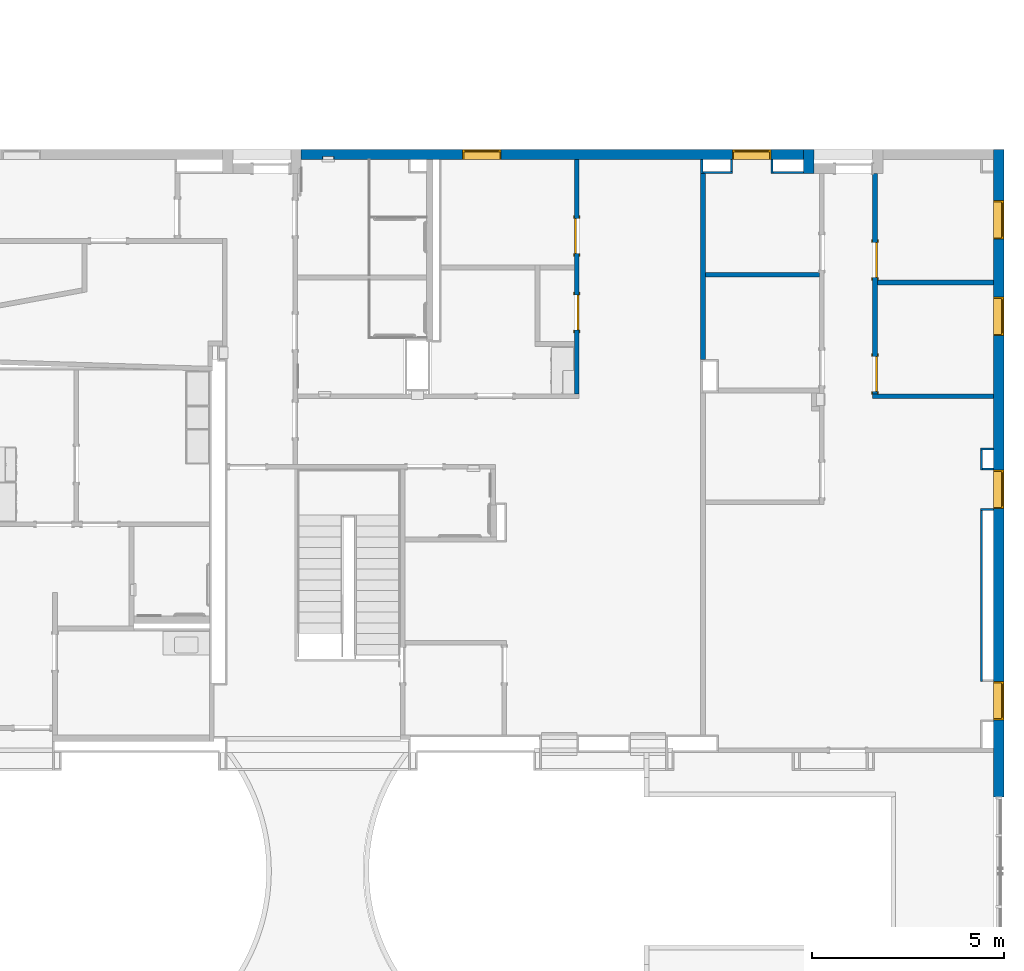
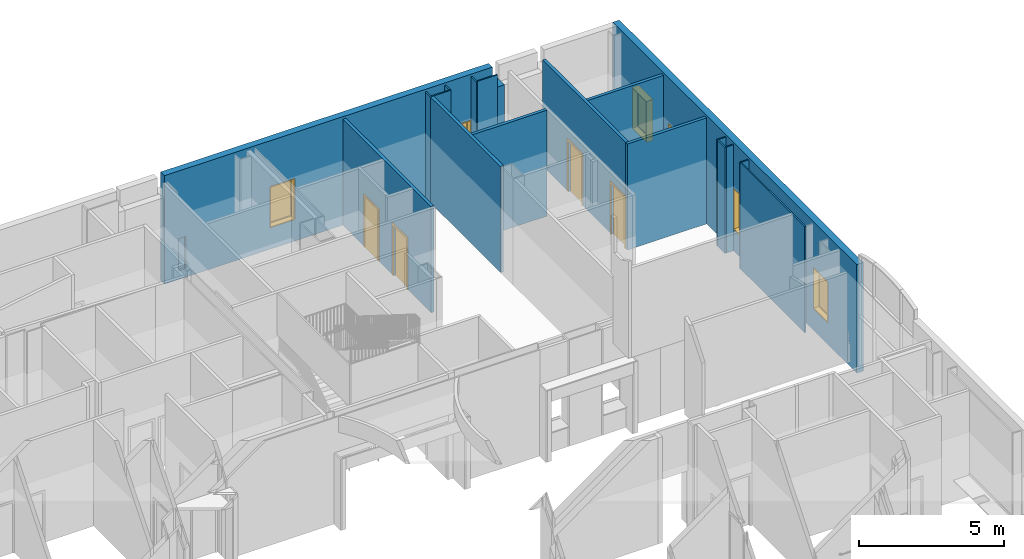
# One storey, part 41 of 87: 19 walls, 6 windows, 4 doors, 11 openings.
"""IFC2X3 building model written with IfcOpenShell, lengths in metres."""

import ifcopenshell
import ifcopenshell.guid

model = None  # the IFC model being written
_history = None  # IfcOwnerHistory: only IFC2X3 demands one
_inside = {}  # id of a spatial element -> (the spatial element, [elements in it])
_under = {}  # id of a project, library or spatial element -> (it, [spatial elements below it])
_declared = {}  # id of a project -> (the project, [libraries it declares])
_typed = {}  # id of a type object -> (the type object, [elements of that type])
_made_of = {}  # id of a material, layer set ... -> (it, [elements and type objects made of it])


def new_model(schema):
    """Start an empty IFC model of exactly this schema.

    Asked for "IFC4X3", IfcOpenShell would pick the latest addendum, in which some entities
    have other attributes; the version numbers below select the first issue.
    IFC2X3 requires an IfcOwnerHistory on every rooted entity: one is made here for all.
    """
    global model, _history
    if schema == "IFC4X3":
        model = ifcopenshell.file(schema_version=(4, 3, 0, 0))
    else:
        model = ifcopenshell.file(schema=schema)
    _inside.clear()
    _under.clear()
    _declared.clear()
    _typed.clear()
    _made_of.clear()
    _history = None
    if model.schema == "IFC2X3":
        org = make("IfcOrganization", Name="unknown")
        user = make(
            "IfcPersonAndOrganization",
            ThePerson=make("IfcPerson", FamilyName="unknown"),
            TheOrganization=org,
        )
        app = make(
            "IfcApplication",
            ApplicationDeveloper=org,
            Version="unknown",
            ApplicationFullName="unknown",
            ApplicationIdentifier="unknown",
        )
        _history = make(
            "IfcOwnerHistory",
            OwningUser=user,
            OwningApplication=app,
            ChangeAction="ADDED",
            CreationDate=0,
        )
    return model


def make(cls, **values):
    """One entity of the class cls with the attributes given. An attribute that is None is left unset."""
    return model.create_entity(
        cls, **{name: value for name, value in values.items() if value is not None}
    )


def entity(cls, *values):
    """Any entity or typed value of the class cls, its attributes in the order of the schema. None: left unset."""
    e = model.create_entity(cls)
    for i, value in enumerate(values):
        if value is not None:
            e[i] = value
    return e


def rooted(cls, **values):
    """An entity with a GlobalId (a new one), such as an element, a storey or a relation."""
    return make(cls, GlobalId=ifcopenshell.guid.new(), OwnerHistory=_history, **values)


def si_unit(unit_type, name, prefix=None):
    """IfcSIUnit, for example si_unit("LENGTHUNIT", "METRE", prefix="MILLI")."""
    return make("IfcSIUnit", UnitType=unit_type, Prefix=prefix, Name=name)


def converted_unit(unit_type, name, factor, base, dimensions=None, offset=None):
    """IfcConversionBasedUnit, such as the inch: factor (a typed value) times the base unit."""
    return make(
        "IfcConversionBasedUnit"
        if offset is None
        else "IfcConversionBasedUnitWithOffset",
        ConversionOffset=offset,
        Dimensions=None
        if dimensions is None
        else entity("IfcDimensionalExponents", *dimensions),
        UnitType=unit_type,
        Name=name,
        ConversionFactor=make(
            "IfcMeasureWithUnit", ValueComponent=factor, UnitComponent=base
        ),
    )


def assignment(units):
    """IfcUnitAssignment: the units of a project."""
    return None if units is None else make("IfcUnitAssignment", Units=units)


def point(xyz):
    """IfcCartesianPoint."""
    return None if xyz is None else make("IfcCartesianPoint", Coordinates=xyz)


def direction(xyz):
    """IfcDirection."""
    return None if xyz is None else make("IfcDirection", DirectionRatios=xyz)


def frame(location, z_axis=None, x_axis=None):
    """IfcAxis2Placement3D, a coordinate frame: its origin and axes. An axis left out is left unset."""
    return make(
        "IfcAxis2Placement3D",
        Location=point(location),
        Axis=direction(z_axis),
        RefDirection=direction(x_axis),
    )


def frame_2d(location, x_axis=None):
    """IfcAxis2Placement2D, a coordinate frame in the plane: its origin and x axis."""
    return make(
        "IfcAxis2Placement2D", Location=point(location), RefDirection=direction(x_axis)
    )


def origin():
    """The frame at (0, 0, 0) with its axes left unset."""
    return frame((0.0, 0.0, 0.0))


def origin_2d_with_axis():
    """The frame at (0, 0) in the plane with the x axis (1, 0) written out."""
    return frame_2d((0.0, 0.0), x_axis=(1.0, 0.0))


def place(relative_to, where):
    """IfcLocalPlacement: puts the frame where relative to a parent placement (None: the world)."""
    return make(
        "IfcLocalPlacement", PlacementRelTo=relative_to, RelativePlacement=where
    )


def context(
    kind, dimensions, precision=None, world=None, true_north=None, identifier=None
):
    """IfcGeometricRepresentationContext, for example the 3D "Model" context."""
    return make(
        "IfcGeometricRepresentationContext",
        ContextIdentifier=identifier,
        ContextType=kind,
        CoordinateSpaceDimension=dimensions,
        Precision=precision,
        WorldCoordinateSystem=world,
        TrueNorth=true_north,
    )


def project(units=None, contexts=None):
    """IfcProject with its units and contexts."""
    return rooted(
        "IfcProject",
        Name="project",
        RepresentationContexts=contexts,
        UnitsInContext=assignment(units),
    )


def spatial(cls, under=None, at=None, **own):
    """A site, building, storey or space (cls), placed at a placement, below another one or the project."""
    s = rooted(cls, ObjectPlacement=at, **own)
    if under is not None:
        _under.setdefault(under.id(), (under, []))[1].append(s)
    return s


def polyline(points):
    """IfcPolyline through the points."""
    return make("IfcPolyline", Points=[point(p) for p in points])


def profile(cls, at=None, kind="AREA", **sizes):
    """A parametric profile (cls). Its sizes go by their IFC names, for example OverallWidth=200.0."""
    return make(cls, ProfileType=kind, Position=at, **sizes)


def rectangle(**sizes):
    """IfcRectangleProfileDef."""
    return profile("IfcRectangleProfileDef", **sizes)


def outline(outer, holes=None, kind="AREA"):
    """IfcArbitraryClosedProfileDef: a profile drawn as a closed curve; with holes, ...WithVoids."""
    if holes is None:
        return make("IfcArbitraryClosedProfileDef", ProfileType=kind, OuterCurve=outer)
    return make(
        "IfcArbitraryProfileDefWithVoids",
        ProfileType=kind,
        OuterCurve=outer,
        InnerCurves=holes,
    )


def extrude(swept, where, along, depth):
    """IfcExtrudedAreaSolid: the profile swept, set in the frame where, extruded along a direction by depth."""
    return make(
        "IfcExtrudedAreaSolid",
        SweptArea=swept,
        Position=where,
        ExtrudedDirection=direction(along),
        Depth=depth,
    )


def shape(context_of_items, identifier, shape_type, items):
    """IfcShapeRepresentation: the items that make up one representation, for example the "Body"."""
    return make(
        "IfcShapeRepresentation",
        ContextOfItems=context_of_items,
        RepresentationIdentifier=identifier,
        RepresentationType=shape_type,
        Items=items,
    )


def source(mapping_origin, context_of_items, identifier, shape_type, items):
    """IfcRepresentationMap: a shape defined once, which mapped items show again and again."""
    return make(
        "IfcRepresentationMap",
        MappingOrigin=mapping_origin,
        MappedRepresentation=shape(context_of_items, identifier, shape_type, items),
    )


def transform(
    local_origin,
    x_axis=None,
    y_axis=None,
    z_axis=None,
    scale=None,
    scale2=None,
    scale3=None,
    uniform=True,
):
    """IfcCartesianTransformationOperator3D, or its non-uniform kind. x_axis, y_axis, z_axis: its Axis1, 2, 3."""
    if uniform:
        return make(
            "IfcCartesianTransformationOperator3D",
            Axis1=direction(x_axis),
            Axis2=direction(y_axis),
            LocalOrigin=point(local_origin),
            Scale=scale,
            Axis3=direction(z_axis),
        )
    return make(
        "IfcCartesianTransformationOperator3DnonUniform",
        Axis1=direction(x_axis),
        Axis2=direction(y_axis),
        LocalOrigin=point(local_origin),
        Scale=scale,
        Axis3=direction(z_axis),
        Scale2=scale2,
        Scale3=scale3,
    )


def mapped(mapping_source, mapping_target):
    """IfcMappedItem: shows the shape of a source again, moved by a transform."""
    return make(
        "IfcMappedItem", MappingSource=mapping_source, MappingTarget=mapping_target
    )


def material(Name=None, Category=None):
    """IfcMaterial."""
    return make("IfcMaterial", Name=Name, Category=Category)


def layer(
    of_material, thickness, ventilated=None, Name=None, Category=None, Priority=None
):
    """IfcMaterialLayer: one layer of a wall or slab, of a material (None: an air gap)."""
    return make(
        "IfcMaterialLayer",
        Material=of_material,
        LayerThickness=thickness,
        IsVentilated=ventilated,
        Name=Name,
        Category=Category,
        Priority=Priority,
    )


def layer_set(layers, Name=None):
    """IfcMaterialLayerSet."""
    return make("IfcMaterialLayerSet", MaterialLayers=layers, LayerSetName=Name)


def layer_usage(for_layer_set, set_direction, sense, offset, extent=None):
    """IfcMaterialLayerSetUsage: how a layer set lies in its element."""
    return make(
        "IfcMaterialLayerSetUsage",
        ForLayerSet=for_layer_set,
        LayerSetDirection=set_direction,
        DirectionSense=sense,
        OffsetFromReferenceLine=offset,
        ReferenceExtent=extent,
    )


def made_of(thing, what):
    """Note that an element or type object is made of a material, layer set ...; save() writes the relation."""
    if what is not None:
        _made_of.setdefault(what.id(), (what, []))[1].append(thing)
    return thing


def type_object(cls, material=None, **own):
    """A type object (cls), such as IfcWallType, which elements share."""
    return made_of(rooted(cls, **own), material)


def type_shapes(of_type, sources):
    """Give a type object the sources (RepresentationMaps) that its elements show as mapped items."""
    of_type.RepresentationMaps = sources


def element(
    cls,
    number,
    at=None,
    inside=None,
    cuts=None,
    type_object=None,
    material=None,
    context=None,
    identifier="Body",
    shape_type=None,
    held_by="IfcProductDefinitionShape",
    body=None,
    shapes=None,
    **own,
):
    """One element of the class cls, such as IfcWall. Its Tag is "e" and its number.

    at: its placement. inside: the storey or other place that contains it. cuts: it is an
    opening in that element (IfcRelVoidsElement). A single representation is given by context,
    identifier, shape_type and body (its items); several are given by shapes. held_by: the class
    of the entity that holds the representations. save() writes the other relations.
    """
    e = rooted(cls, Tag="e%d" % number, ObjectPlacement=at, **own)
    if body is not None:
        shapes = [shape(context, identifier, shape_type, body)]
    if shapes is not None:
        e.Representation = make(held_by, Representations=shapes)
    if inside is not None:
        _inside.setdefault(inside.id(), (inside, []))[1].append(e)
    if cuts is not None:
        rooted(
            "IfcRelVoidsElement", RelatingBuildingElement=cuts, RelatedOpeningElement=e
        )
    if type_object is not None:
        _typed.setdefault(type_object.id(), (type_object, []))[1].append(e)
    return made_of(e, material)


def fill(opening, filler):
    """IfcRelFillsElement: the door or window that sits in an opening."""
    return rooted(
        "IfcRelFillsElement",
        RelatingOpeningElement=opening,
        RelatedBuildingElement=filler,
    )


def aggregate(whole, parts):
    """IfcRelAggregates: a whole, such as a stair, and the parts it consists of."""
    return rooted("IfcRelAggregates", RelatingObject=whole, RelatedObjects=parts)


def save(model, path):
    """Write the relations noted so far, then the file.

    IfcRelAggregates (storeys below a building ...), IfcRelContainedInSpatialStructure (elements
    in a storey), IfcRelDefinesByType, IfcRelAssociatesMaterial and IfcRelDeclares: one each for
    every whole, place, type object, material and project.
    """
    for whole, parts in _under.values():
        aggregate(whole, parts)
    for where, things in _inside.values():
        rooted(
            "IfcRelContainedInSpatialStructure",
            RelatedElements=things,
            RelatingStructure=where,
        )
    for kind, things in _typed.values():
        rooted("IfcRelDefinesByType", RelatedObjects=things, RelatingType=kind)
    for what, things in _made_of.values():
        rooted("IfcRelAssociatesMaterial", RelatedObjects=things, RelatingMaterial=what)
    for by, libraries in _declared.values():
        rooted("IfcRelDeclares", RelatingContext=by, RelatedDefinitions=libraries)
    model.write(path)


model = new_model("IFC2X3")

# Units and contexts
model_context = context("Model", 3, precision=1e-09, world=origin())
plan_context = context("Plan", 3, precision=1e-09, world=origin())
ifc_project = project(units=[si_unit("LENGTHUNIT", "METRE"), si_unit("AREAUNIT", "SQUARE_METRE"), si_unit("VOLUMEUNIT", "CUBIC_METRE"), converted_unit("PLANEANGLEUNIT", "DEGREE", entity("IfcRatioMeasure", 0.01745329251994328), si_unit("PLANEANGLEUNIT", "RADIAN"), dimensions=[0, 0, 0, 0, 0, 0, 0]), si_unit("TIMEUNIT", "SECOND")], contexts=[model_context, plan_context])

# Site, building, storey
site_placement = place(None, origin())
site = spatial("IfcSite", under=ifc_project, at=site_placement, Name="Default", CompositionType="ELEMENT")
building_placement = place(site_placement, origin())
building = spatial("IfcBuilding", under=site, at=building_placement, CompositionType="ELEMENT")
storey_placement = place(building_placement, origin())
storey = spatial("IfcBuildingStorey", under=building, at=storey_placement, Name="First Floor", CompositionType="ELEMENT", Elevation=-3.531500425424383e-13)

# Wall, openings, windows
ifc_material_1 = material(Name="Insulation - Insulated Panel")
ifc_layer_1 = layer(ifc_material_1, 0.042)
ifc_material_2 = material(Name="Metal - Firring")
ifc_layer_2 = layer(ifc_material_2, 0.038)
ifc_material_3 = material(Name="Wood - Sheathing - plywood")
ifc_layer_3 = layer(ifc_material_3, 0.019)
ifc_material_4 = material(Name="Metal - Stud Layer")
ifc_layer_4 = layer(ifc_material_4, 0.152)
ifc_material_5 = material(Name="Plasterboard")
ifc_layer_5 = layer(ifc_material_5, 0.016)
ifc_layer_set_1 = layer_set([ifc_layer_1, ifc_layer_2, ifc_layer_3, ifc_layer_4, ifc_layer_5], Name="Basic Wall:Exterior - Insul Panel on Mtl. Stud")
ifc_layer_usage_1 = layer_usage(ifc_layer_set_1, "AXIS2", "NEGATIVE", 0.1335)
wall_1_placement = place(storey_placement, frame((0.2464999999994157, 50.46999999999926, 0.0), z_axis=(0.0, 0.0, 1.0), x_axis=(0.0, -1.0, 0.0)))
wall_1 = element("IfcWallStandardCase", 1, at=wall_1_placement, inside=storey, material=ifc_layer_usage_1, Name="Basic Wall:Exterior - Insul Panel on Mtl. Stud", ObjectType="Basic Wall:Exterior - Insul Panel on Mtl. Stud", context=model_context, shape_type="SweptSolid", body=[
    extrude(rectangle(XDim=16.84000000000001, YDim=0.267, at=frame_2d((8.420000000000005, 0.0), x_axis=(-1.0, 0.0))), origin(), (0.0, 0.0, 1.0), 4.57000000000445),
])
opening_1_placement = place(wall_1_placement, frame((1.331500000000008, -0.1335000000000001, 0.9049999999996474)))
opening_1 = element("IfcOpeningElement", 2, at=opening_1_placement, cuts=wall_1, Name="M_Fixed:1735 x 1000mm:1735 x 1000mm:1", ObjectType="Opening", context=model_context, shape_type="SweptSolid", body=[
    extrude(rectangle(XDim=1.734999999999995, YDim=0.9999999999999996, at=frame_2d((0.8674999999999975, 0.4999999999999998), x_axis=(1.0, 0.0))), frame((0.0, 0.0, 0.0), z_axis=(0.0, 1.0, 0.0), x_axis=(0.0, 0.0, 1.0)), (0.0, 0.0, 1.0), 0.267),
])
opening_2_placement = place(wall_1_placement, frame((3.84, -0.1335000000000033, 0.9049999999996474)))
opening_2 = element("IfcOpeningElement", 3, at=opening_2_placement, cuts=wall_1, Name="M_Fixed:1735 x 1000mm:1735 x 1000mm:1", ObjectType="Opening", context=model_context, shape_type="SweptSolid", body=[
    extrude(rectangle(XDim=1.734999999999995, YDim=0.9999999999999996, at=frame_2d((0.8674999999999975, 0.4999999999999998), x_axis=(1.0, 0.0))), frame((0.0, 0.0, 0.0), z_axis=(0.0, 1.0, 0.0), x_axis=(0.0, 0.0, 1.0)), (0.0, 0.0, 1.0), 0.267),
])
opening_3_placement = place(wall_1_placement, frame((8.34008813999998, -0.1335000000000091, 0.9049999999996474)))
opening_3 = element("IfcOpeningElement", 4, at=opening_3_placement, cuts=wall_1, Name="M_Fixed:1735 x 1000mm:1735 x 1000mm:1", ObjectType="Opening", context=model_context, shape_type="SweptSolid", body=[
    extrude(rectangle(XDim=1.734999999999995, YDim=0.9999999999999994, at=frame_2d((0.8674999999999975, 0.5000000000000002), x_axis=(1.0, 0.0))), frame((0.0, 0.0, 0.0), z_axis=(0.0, 1.0, 0.0), x_axis=(0.0, 0.0, 1.0)), (0.0, 0.0, 1.0), 0.267),
])
opening_4_placement = place(wall_1_placement, frame((13.84008814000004, -0.1335000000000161, 0.9049999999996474)))
opening_4 = element("IfcOpeningElement", 5, at=opening_4_placement, cuts=wall_1, Name="M_Fixed:1735 x 1000mm:1735 x 1000mm:1", ObjectType="Opening", context=model_context, shape_type="SweptSolid", body=[
    extrude(rectangle(XDim=1.734999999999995, YDim=0.9999999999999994, at=frame_2d((0.8674999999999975, 0.5000000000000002), x_axis=(1.0, 0.0))), frame((0.0, 0.0, 0.0), z_axis=(0.0, 1.0, 0.0), x_axis=(0.0, 0.0, 1.0)), (0.0, 0.0, 1.0), 0.267),
])
window_style = type_object("IfcWindowStyle", Name="1735 x 1000mm", ConstructionType="NOTDEFINED", OperationType="NOTDEFINED", ParameterTakesPrecedence=False, Sizeable=False)
shared_shape_1 = source(origin(), model_context, "Body", "SweptSolid", [
    extrude(rectangle(XDim=0.012, YDim=0.873999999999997, at=origin_2d_with_axis()), frame((0.5000000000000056, 0.2259999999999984, 0.06299999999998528), z_axis=(0.0, 0.0, 1.0), x_axis=(0.0, -1.0, 0.0)), (0.0, 0.0, 1.0), 1.609000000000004),
    extrude(outline(polyline([(-0.4809999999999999, -0.8485000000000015), (0.4809999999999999, -0.8485000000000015), (0.4809999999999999, 0.8485000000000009), (-0.4809999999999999, 0.8485000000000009), (-0.4809999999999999, -0.8485000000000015)]), holes=[polyline([(-0.4369999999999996, -0.8045000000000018), (-0.4369999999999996, 0.8045000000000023), (0.4369999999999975, 0.8045000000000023), (0.4369999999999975, -0.8045000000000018), (-0.4369999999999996, -0.8045000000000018)])]), frame((0.5000000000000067, 0.203999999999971, 0.8674999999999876), z_axis=(0.0, 1.0, 0.0), x_axis=(1.0, 0.0, 0.0)), (0.0, 0.0, 1.0), 0.04400000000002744),
    extrude(outline(polyline([(-0.4999999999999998, -0.8674999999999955), (0.4999999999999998, -0.8674999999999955), (0.4999999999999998, 0.8674999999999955), (-0.4999999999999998, 0.8674999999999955), (-0.4999999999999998, -0.8674999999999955)]), holes=[polyline([(-0.4810000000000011, -0.8484999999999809), (-0.4810000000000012, 0.8485000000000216), (0.4809999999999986, 0.8485000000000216), (0.4809999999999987, -0.8484999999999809), (-0.4810000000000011, -0.8484999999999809)])]), frame((0.500000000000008, 0.203999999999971, 0.8675000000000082), z_axis=(0.0, 1.0, 0.0), x_axis=(1.0, 0.0, 0.0)), (0.0, 0.0, 1.0), 0.06300000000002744),
    extrude(outline(polyline([(-0.5000000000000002, -0.867499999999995), (0.5000000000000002, -0.867499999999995), (0.5000000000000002, 0.867499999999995), (-0.5000000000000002, 0.867499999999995), (-0.5000000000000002, -0.867499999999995)]), holes=[polyline([(-0.4679999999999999, -0.8354999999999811), (-0.4679999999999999, 0.8355000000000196), (0.4680000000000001, 0.8355000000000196), (0.4680000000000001, -0.8354999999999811), (-0.4679999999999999, -0.8354999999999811)])]), frame((0.5000000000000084, 0.0, 0.8675000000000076), z_axis=(0.0, 1.0, 0.0), x_axis=(1.0, 0.0, 0.0)), (0.0, 0.0, 1.0), 0.2039999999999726),
])
type_shapes(window_style, [shared_shape_1])
window_1_placement = place(opening_1_placement, origin())
window_1 = element("IfcWindow", 6, at=window_1_placement, inside=storey, type_object=window_style, Name="M_Fixed:1735 x 1000mm:1735 x 1000mm", ObjectType="1735 x 1000mm", OverallHeight=1.734999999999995, OverallWidth=0.9999999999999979, context=model_context, shape_type="MappedRepresentation", body=[
    mapped(shared_shape_1, transform((0.0, 0.0, 0.0), scale=1.0)),
])
fill(opening_1, window_1)
window_2_placement = place(opening_2_placement, origin())
window_2 = element("IfcWindow", 7, at=window_2_placement, inside=storey, type_object=window_style, Name="M_Fixed:1735 x 1000mm:1735 x 1000mm", ObjectType="1735 x 1000mm", OverallHeight=1.734999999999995, OverallWidth=0.9999999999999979, context=model_context, shape_type="MappedRepresentation", body=[
    mapped(shared_shape_1, transform((0.0, 0.0, 0.0), scale=1.0)),
])
fill(opening_2, window_2)
window_3_placement = place(opening_3_placement, origin())
window_3 = element("IfcWindow", 8, at=window_3_placement, inside=storey, type_object=window_style, Name="M_Fixed:1735 x 1000mm:1735 x 1000mm", ObjectType="1735 x 1000mm", OverallHeight=1.734999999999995, OverallWidth=0.9999999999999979, context=model_context, shape_type="MappedRepresentation", body=[
    mapped(shared_shape_1, transform((0.0, 0.0, 0.0), scale=1.0)),
])
fill(opening_3, window_3)
window_4_placement = place(opening_4_placement, origin())
window_4 = element("IfcWindow", 9, at=window_4_placement, inside=storey, type_object=window_style, Name="M_Fixed:1735 x 1000mm:1735 x 1000mm", ObjectType="1735 x 1000mm", OverallHeight=1.734999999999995, OverallWidth=0.9999999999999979, context=model_context, shape_type="MappedRepresentation", body=[
    mapped(shared_shape_1, transform((0.0, 0.0, 0.0), scale=1.0)),
])
fill(opening_4, window_4)

ifc_layer_usage_2 = layer_usage(ifc_layer_set_1, "AXIS2", "NEGATIVE", 0.1335)
wall_2_placement = place(storey_placement, frame((-18.03650000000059, 50.33649999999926, 0.0)))
wall_2 = element("IfcWallStandardCase", 10, at=wall_2_placement, inside=storey, material=ifc_layer_usage_2, Name="Basic Wall:Exterior - Insul Panel on Mtl. Stud", ObjectType="Basic Wall:Exterior - Insul Panel on Mtl. Stud", context=model_context, shape_type="SweptSolid", body=[
    extrude(rectangle(XDim=13.07100000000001, YDim=0.2669999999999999, at=frame_2d((6.669000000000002, 0.0), x_axis=(-1.0, 0.0))), origin(), (0.0, 0.0, 1.0), 4.57000000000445),
])
opening_5_placement = place(wall_2_placement, origin())
element("IfcOpeningElement", 11, at=opening_5_placement, cuts=wall_2, ObjectType="Opening", context=model_context, shape_type="SweptSolid", body=[
    extrude(rectangle(XDim=1.362075, YDim=0.2984499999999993, at=origin_2d_with_axis()), frame((0.8386000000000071, -0.1970000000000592, 1.041399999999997), z_axis=(0.0, 1.0, 0.0), x_axis=(0.0, 0.0, -1.0)), (0.0, 0.0, 1.0), 0.15240000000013),
])
opening_6_placement = place(wall_2_placement, frame((4.336499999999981, -0.133500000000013, 0.9049999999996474)))
opening_6 = element("IfcOpeningElement", 12, at=opening_6_placement, cuts=wall_2, Name="M_Fixed:1735 x 1000mm:1735 x 1000mm:1", ObjectType="Opening", context=model_context, shape_type="SweptSolid", body=[
    extrude(rectangle(XDim=1.734999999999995, YDim=0.9999999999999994, at=frame_2d((0.8674999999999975, 0.5000000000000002), x_axis=(1.0, 0.0))), frame((0.0, 0.0, 0.0), z_axis=(0.0, 1.0, 0.0), x_axis=(0.0, 0.0, 1.0)), (0.0, 0.0, 1.0), 0.267),
])
opening_7_placement = place(wall_2_placement, frame((11.35250249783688, -0.1335000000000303, 0.9049999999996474)))
opening_7 = element("IfcOpeningElement", 13, at=opening_7_placement, cuts=wall_2, Name="M_Fixed:1735 x 1000mm:1735 x 1000mm:1", ObjectType="Opening", context=model_context, shape_type="SweptSolid", body=[
    extrude(rectangle(XDim=1.734999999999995, YDim=0.9999999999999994, at=frame_2d((0.8674999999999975, 0.5000000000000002), x_axis=(1.0, 0.0))), frame((0.0, 0.0, 0.0), z_axis=(0.0, 1.0, 0.0), x_axis=(0.0, 0.0, 1.0)), (0.0, 0.0, 1.0), 0.267),
])
window_5_placement = place(opening_6_placement, origin())
window_5 = element("IfcWindow", 14, at=window_5_placement, inside=storey, type_object=window_style, Name="M_Fixed:1735 x 1000mm:1735 x 1000mm", ObjectType="1735 x 1000mm", OverallHeight=1.734999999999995, OverallWidth=1.0, context=model_context, shape_type="MappedRepresentation", body=[
    mapped(shared_shape_1, transform((0.0, 0.0, 0.0), scale=1.0)),
])
fill(opening_6, window_5)
window_6_placement = place(opening_7_placement, origin())
window_6 = element("IfcWindow", 15, at=window_6_placement, inside=storey, type_object=window_style, Name="M_Fixed:1735 x 1000mm:1735 x 1000mm", ObjectType="1735 x 1000mm", OverallHeight=1.734999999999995, OverallWidth=1.0, context=model_context, shape_type="MappedRepresentation", body=[
    mapped(shared_shape_1, transform((0.0, 0.0, 0.0), scale=1.0)),
])
fill(opening_7, window_6)

# Wall
ifc_layer_usage_3 = layer_usage(ifc_layer_set_1, "AXIS2", "NEGATIVE", 0.1335)
wall_3_placement = place(storey_placement, frame((-4.698500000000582, 50.46999999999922, 0.0), z_axis=(0.0, 0.0, 1.0), x_axis=(0.0, -1.0, 0.0)))
element("IfcWallStandardCase", 16, at=wall_3_placement, inside=storey, material=ifc_layer_usage_3, Name="Basic Wall:Exterior - Insul Panel on Mtl. Stud", ObjectType="Basic Wall:Exterior - Insul Panel on Mtl. Stud", context=model_context, shape_type="SweptSolid", body=[
    extrude(rectangle(XDim=0.6269999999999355, YDim=0.267, at=frame_2d((0.3134999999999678, 0.0), x_axis=(-1.0, 0.0))), origin(), (0.0, 0.0, 1.0), 3.949500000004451),
])

# Wall, openings, doors
ifc_layer_6 = layer(ifc_material_5, 0.016)
ifc_layer_7 = layer(ifc_material_4, 0.092)
ifc_layer_8 = layer(ifc_material_5, 0.016)
ifc_layer_set_2 = layer_set([ifc_layer_6, ifc_layer_7, ifc_layer_8], Name="Basic Wall:Interior - Partition (92mm Stud)")
ifc_layer_usage_4 = layer_usage(ifc_layer_set_2, "AXIS2", "NEGATIVE", 0.062)
wall_4_placement = place(storey_placement, frame((-10.7320000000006, 50.20299999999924, 0.0), z_axis=(0.0, 0.0, 1.0), x_axis=(0.0, -1.0, 0.0)))
wall_4 = element("IfcWallStandardCase", 17, at=wall_4_placement, inside=storey, material=ifc_layer_usage_4, Name="Basic Wall:Interior - Partition (92mm Stud)", ObjectType="Basic Wall:Interior - Partition (92mm Stud)", context=model_context, shape_type="SweptSolid", body=[
    extrude(rectangle(XDim=6.088999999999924, YDim=0.1240000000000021, at=frame_2d((3.044499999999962, 0.0), x_axis=(-1.0, 0.0))), origin(), (0.0, 0.0, 1.0), 4.46800000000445),
])
opening_8_placement = place(wall_4_placement, frame((2.443999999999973, 0.06199999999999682, 0.0)))
opening_8 = element("IfcOpeningElement", 18, at=opening_8_placement, cuts=wall_4, Name="M_Single-Flush:0915 x 2134mm:0915 x 2134mm:1", ObjectType="Opening", context=model_context, shape_type="SweptSolid", body=[
    extrude(rectangle(XDim=0.9149999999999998, YDim=2.134, at=frame_2d((1.067, 0.4574999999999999), x_axis=(0.0, -1.0))), frame((0.0, 0.0, 0.0), z_axis=(0.0, -1.0, 0.0), x_axis=(0.0, 0.0, 1.0)), (0.0, 0.0, 1.0), 0.124),
])
opening_9_placement = place(wall_4_placement, frame((3.513999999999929, -0.06200000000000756, 0.0)))
opening_9 = element("IfcOpeningElement", 19, at=opening_9_placement, cuts=wall_4, Name="M_Single-Flush:0915 x 2134mm:0915 x 2134mm:1", ObjectType="Opening", context=model_context, shape_type="SweptSolid", body=[
    extrude(rectangle(XDim=0.9149999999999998, YDim=2.134, at=frame_2d((1.067, 0.4575), x_axis=(0.0, 1.0))), frame((0.0, 0.0, 0.0), z_axis=(0.0, 1.0, 0.0), x_axis=(0.0, 0.0, 1.0)), (0.0, 0.0, 1.0), 0.124),
])
door_style_1 = type_object("IfcDoorStyle", Name="0915 x 2134mm", ConstructionType="NOTDEFINED", OperationType="SINGLE_SWING_RIGHT", ParameterTakesPrecedence=False, Sizeable=False)
shared_shape_2 = source(origin(), model_context, "Body", "SweptSolid", [
    extrude(outline(polyline([(-0.5335, -1.123999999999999), (0.5334999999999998, -1.123999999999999), (0.5334999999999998, 1.086), (0.4574999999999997, 1.086), (0.4574999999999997, -1.048000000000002), (-0.4574999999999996, -1.048000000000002), (-0.4574999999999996, 1.086), (-0.5335, 1.086), (-0.5335, -1.123999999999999)])), frame((0.4575000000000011, 0.1239999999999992, 1.086), z_axis=(0.0, 1.0, 0.0), x_axis=(1.0, 0.0, 0.0)), (0.0, 0.0, 1.0), 0.02499999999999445),
    extrude(outline(polyline([(-1.123999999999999, -0.5334999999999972), (1.085999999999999, -0.5334999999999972), (1.085999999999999, -0.4575000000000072), (-1.048, -0.4575000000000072), (-1.048, 0.4575000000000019), (1.085999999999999, 0.4575000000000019), (1.085999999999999, 0.5335000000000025), (-1.123999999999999, 0.5335000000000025), (-1.123999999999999, -0.5334999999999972)])), frame((0.4575000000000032, -0.02500000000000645, 1.085999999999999), z_axis=(0.0, 1.0, 0.0), x_axis=(0.0, 0.0, -1.0)), (0.0, 0.0, 1.0), 0.02500000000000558),
    extrude(rectangle(XDim=0.051, YDim=0.9149999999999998, at=origin_2d_with_axis()), frame((0.4575000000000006, 0.09849999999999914, 0.0), z_axis=(0.0, 0.0, 1.0), x_axis=(0.0, 1.0, 0.0)), (0.0, 0.0, 1.0), 2.133999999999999),
])
type_shapes(door_style_1, [shared_shape_2])
door_1_placement = place(opening_9_placement, origin())
door_1 = element("IfcDoor", 20, at=door_1_placement, inside=storey, type_object=door_style_1, Name="M_Single-Flush:0915 x 2134mm:0915 x 2134mm", ObjectType="0915 x 2134mm", OverallHeight=2.134, OverallWidth=0.9149999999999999, context=model_context, shape_type="MappedRepresentation", body=[
    mapped(shared_shape_2, transform((0.0, 0.0, 0.0), scale=1.0)),
])
fill(opening_9, door_1)
door_style_2 = type_object("IfcDoorStyle", Name="0915 x 2134mm", ConstructionType="NOTDEFINED", OperationType="SINGLE_SWING_LEFT", ParameterTakesPrecedence=False, Sizeable=False)
shared_shape_3 = source(origin(), model_context, "Body", "SweptSolid", [
    extrude(outline(polyline([(-0.5335, -1.123999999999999), (0.5334999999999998, -1.123999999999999), (0.5334999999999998, 1.086), (0.4574999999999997, 1.086), (0.4574999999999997, -1.048000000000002), (-0.4574999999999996, -1.048000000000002), (-0.4574999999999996, 1.086), (-0.5335, 1.086), (-0.5335, -1.123999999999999)])), frame((0.4575000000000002, 0.1489999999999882, 1.086), z_axis=(0.0, -1.0, 0.0), x_axis=(-1.0, 0.0, 0.0)), (0.0, 0.0, 1.0), 0.02499999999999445),
    extrude(outline(polyline([(-1.123999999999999, -0.5334999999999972), (1.085999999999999, -0.5334999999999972), (1.085999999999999, -0.4575000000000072), (-1.048, -0.4575000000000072), (-1.048, 0.4575000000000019), (1.085999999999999, 0.4575000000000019), (1.085999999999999, 0.5335000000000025), (-1.123999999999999, 0.5335000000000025), (-1.123999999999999, -0.5334999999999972)])), frame((0.4574999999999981, 0.0, 1.085999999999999), z_axis=(0.0, -1.0, 0.0), x_axis=(0.0, 0.0, -1.0)), (0.0, 0.0, 1.0), 0.02500000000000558),
    extrude(rectangle(XDim=0.9149999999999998, YDim=0.051, at=origin_2d_with_axis()), frame((0.4575000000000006, 0.09849999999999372, 0.0)), (0.0, 0.0, 1.0), 2.133999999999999),
])
type_shapes(door_style_2, [shared_shape_3])
door_2_placement = place(opening_8_placement, frame((0.0, 0.0, 0.0), z_axis=(0.0, 0.0, 1.0), x_axis=(-1.0, 0.0, 0.0)))
door_2 = element("IfcDoor", 21, at=door_2_placement, inside=storey, type_object=door_style_2, Name="M_Single-Flush:0915 x 2134mm:0915 x 2134mm", ObjectType="0915 x 2134mm", OverallHeight=2.134, OverallWidth=0.9149999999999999, context=model_context, shape_type="MappedRepresentation", body=[
    mapped(shared_shape_3, transform((0.0, 0.0, 0.0), scale=1.0)),
])
fill(opening_8, door_2)

# Walls
ifc_layer_usage_5 = layer_usage(ifc_layer_set_2, "AXIS2", "NEGATIVE", 0.062)
wall_5_placement = place(storey_placement, frame((-4.424000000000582, 47.21199999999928, 0.0), z_axis=(0.0, 0.0, 1.0), x_axis=(-1.0, 0.0, 0.0)))
element("IfcWallStandardCase", 22, at=wall_5_placement, inside=storey, material=ifc_layer_usage_5, Name="Basic Wall:Interior - Partition (92mm Stud)", ObjectType="Basic Wall:Interior - Partition (92mm Stud)", context=model_context, shape_type="SweptSolid", body=[
    extrude(rectangle(XDim=2.961999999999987, YDim=0.1240000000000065, at=frame_2d((1.480999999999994, 0.0), x_axis=(-1.0, 0.0))), origin(), (0.0, 0.0, 1.0), 4.46800000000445),
])
ifc_layer_usage_6 = layer_usage(ifc_layer_set_2, "AXIS2", "NEGATIVE", 0.062)
wall_6_placement = place(storey_placement, frame((0.1129999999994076, 44.05199999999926, 0.0), z_axis=(0.0, 0.0, 1.0), x_axis=(-1.0, 0.0, 0.0)))
element("IfcWallStandardCase", 23, at=wall_6_placement, inside=storey, material=ifc_layer_usage_6, Name="Basic Wall:Interior - Partition (92mm Stud)", ObjectType="Basic Wall:Interior - Partition (92mm Stud)", context=model_context, shape_type="SweptSolid", body=[
    extrude(rectangle(XDim=3.15299999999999, YDim=0.1240000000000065, at=frame_2d((1.576499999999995, 0.0), x_axis=(-1.0, 0.0))), origin(), (0.0, 0.0, 1.0), 4.46800000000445),
])

# Wall, openings, doors
ifc_layer_usage_7 = layer_usage(ifc_layer_set_2, "AXIS2", "NEGATIVE", 0.062)
wall_7_placement = place(storey_placement, frame((-2.978000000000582, 44.11399999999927, 0.0), z_axis=(0.0, 0.0, 1.0), x_axis=(0.0, 1.0, 0.0)))
wall_7 = element("IfcWallStandardCase", 24, at=wall_7_placement, inside=storey, material=ifc_layer_usage_7, Name="Basic Wall:Interior - Partition (92mm Stud)", ObjectType="Basic Wall:Interior - Partition (92mm Stud)", context=model_context, shape_type="SweptSolid", body=[
    extrude(rectangle(XDim=5.729000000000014, YDim=0.124, at=frame_2d((2.864500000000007, 0.0), x_axis=(-1.0, 0.0))), origin(), (0.0, 0.0, 1.0), 4.46800000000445),
])
opening_10_placement = place(wall_7_placement, frame((3.934999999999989, 0.06199999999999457, 0.0)))
opening_10 = element("IfcOpeningElement", 25, at=opening_10_placement, cuts=wall_7, Name="M_Single-Flush:0915 x 2134mm:0915 x 2134mm:1", ObjectType="Opening", context=model_context, shape_type="SweptSolid", body=[
    extrude(rectangle(XDim=0.9149999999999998, YDim=2.134, at=frame_2d((1.067, 0.4575), x_axis=(0.0, 1.0))), frame((0.0, 0.0, 0.0), z_axis=(0.0, -1.0, 0.0), x_axis=(0.0, 0.0, 1.0)), (0.0, 0.0, 1.0), 0.124),
])
opening_11_placement = place(wall_7_placement, frame((0.974999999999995, 0.06199999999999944, 0.0)))
opening_11 = element("IfcOpeningElement", 26, at=opening_11_placement, cuts=wall_7, Name="M_Single-Flush:0915 x 2134mm:0915 x 2134mm:1", ObjectType="Opening", context=model_context, shape_type="SweptSolid", body=[
    extrude(rectangle(XDim=0.9149999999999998, YDim=2.134, at=frame_2d((1.067, 0.4575), x_axis=(0.0, 1.0))), frame((0.0, 0.0, 0.0), z_axis=(0.0, -1.0, 0.0), x_axis=(0.0, 0.0, 1.0)), (0.0, 0.0, 1.0), 0.124),
])
door_3_placement = place(opening_10_placement, frame((0.0, 0.0, 0.0), z_axis=(0.0, 0.0, 1.0), x_axis=(-1.0, 0.0, 0.0)))
door_3 = element("IfcDoor", 27, at=door_3_placement, inside=storey, type_object=door_style_1, Name="M_Single-Flush:0915 x 2134mm:0915 x 2134mm", ObjectType="0915 x 2134mm", OverallHeight=2.134, OverallWidth=0.9149999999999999, context=model_context, shape_type="MappedRepresentation", body=[
    mapped(shared_shape_2, transform((0.0, 0.0, 0.0), scale=1.0)),
])
fill(opening_10, door_3)
door_4_placement = place(opening_11_placement, frame((0.0, 0.0, 0.0), z_axis=(0.0, 0.0, 1.0), x_axis=(-1.0, 0.0, 0.0)))
door_4 = element("IfcDoor", 28, at=door_4_placement, inside=storey, type_object=door_style_1, Name="M_Single-Flush:0915 x 2134mm:0915 x 2134mm", ObjectType="0915 x 2134mm", OverallHeight=2.134, OverallWidth=0.9149999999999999, context=model_context, shape_type="MappedRepresentation", body=[
    mapped(shared_shape_2, transform((0.0, 0.0, 0.0), scale=1.0)),
])
fill(opening_11, door_4)

# Walls
ifc_layer_usage_8 = layer_usage(ifc_layer_set_2, "AXIS2", "NEGATIVE", 0.062)
wall_8_placement = place(storey_placement, frame((0.1129999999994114, 47.01199999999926, 0.0), z_axis=(0.0, 0.0, 1.0), x_axis=(-1.0, 0.0, 0.0)))
element("IfcWallStandardCase", 29, at=wall_8_placement, inside=storey, material=ifc_layer_usage_8, Name="Basic Wall:Interior - Partition (92mm Stud)", ObjectType="Basic Wall:Interior - Partition (92mm Stud)", context=model_context, shape_type="SweptSolid", body=[
    extrude(rectangle(XDim=3.028999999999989, YDim=0.1240000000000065, at=frame_2d((1.514499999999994, 0.0), x_axis=(-1.0, 0.0))), origin(), (0.0, 0.0, 1.0), 4.46800000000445),
])
ifc_layer_9 = layer(ifc_material_4, 0.038)
ifc_layer_10 = layer(ifc_material_5, 0.016)
ifc_layer_set_3 = layer_set([ifc_layer_9, ifc_layer_10], Name="Basic Wall:Interior - Furring (38 mm Stud)")
ifc_layer_usage_9 = layer_usage(ifc_layer_set_3, "AXIS2", "NEGATIVE", 0.027)
wall_9_placement = place(storey_placement, frame((0.1129999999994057, 42.67970225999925, 0.0), z_axis=(0.0, 0.0, 1.0), x_axis=(-1.0, 0.0, 0.0)))
element("IfcWallStandardCase", 30, at=wall_9_placement, inside=storey, material=ifc_layer_usage_9, Name="Basic Wall:Interior - Furring (38 mm Stud)", ObjectType="Basic Wall:Interior - Furring (38 mm Stud)", context=model_context, shape_type="SweptSolid", body=[
    extrude(rectangle(XDim=0.3429999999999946, YDim=0.05400000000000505, at=frame_2d((0.1714999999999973, 0.0), x_axis=(-1.0, 0.0))), origin(), (0.0, 0.0, 1.0), 4.46800000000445),
])
ifc_layer_usage_10 = layer_usage(ifc_layer_set_3, "AXIS2", "NEGATIVE", 0.027)
wall_10_placement = place(storey_placement, frame((-0.2030000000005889, 42.65270225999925, 0.0), z_axis=(0.0, 0.0, 1.0), x_axis=(0.0, -1.0, 0.0)))
element("IfcWallStandardCase", 31, at=wall_10_placement, inside=storey, material=ifc_layer_usage_10, Name="Basic Wall:Interior - Furring (38 mm Stud)", ObjectType="Basic Wall:Interior - Furring (38 mm Stud)", context=model_context, shape_type="SweptSolid", body=[
    extrude(rectangle(XDim=0.5227903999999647, YDim=0.05400000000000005, at=frame_2d((0.2613951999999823, 0.0), x_axis=(-1.0, 0.0))), origin(), (0.0, 0.0, 1.0), 4.46800000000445),
])
ifc_layer_usage_11 = layer_usage(ifc_layer_set_3, "AXIS2", "NEGATIVE", 0.027)
wall_11_placement = place(storey_placement, frame((-0.1760000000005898, 42.15691185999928, 0.0)))
element("IfcWallStandardCase", 32, at=wall_11_placement, inside=storey, material=ifc_layer_usage_11, Name="Basic Wall:Interior - Furring (38 mm Stud)", ObjectType="Basic Wall:Interior - Furring (38 mm Stud)", context=model_context, shape_type="SweptSolid", body=[
    extrude(rectangle(XDim=0.2889999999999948, YDim=0.05400000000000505, at=frame_2d((0.1444999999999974, 0.0), x_axis=(-1.0, 0.0))), origin(), (0.0, 0.0, 1.0), 4.46800000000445),
])
ifc_layer_usage_12 = layer_usage(ifc_layer_set_3, "AXIS2", "NEGATIVE", 0.027)
wall_12_placement = place(storey_placement, frame((0.1129999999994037, 41.10291185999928, 0.0), z_axis=(0.0, 0.0, 1.0), x_axis=(-1.0, 0.0, 0.0)))
element("IfcWallStandardCase", 33, at=wall_12_placement, inside=storey, material=ifc_layer_usage_12, Name="Basic Wall:Interior - Furring (38 mm Stud)", ObjectType="Basic Wall:Interior - Furring (38 mm Stud)", context=model_context, shape_type="SweptSolid", body=[
    extrude(rectangle(XDim=0.3429999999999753, YDim=0.05400000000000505, at=frame_2d((0.1714999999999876, 0.0), x_axis=(-1.0, 0.0))), origin(), (0.0, 0.0, 1.0), 4.46800000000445),
])
ifc_layer_usage_13 = layer_usage(ifc_layer_set_3, "AXIS2", "NEGATIVE", 0.027)
wall_13_placement = place(storey_placement, frame((-0.2030000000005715, 41.07591185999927, 0.0), z_axis=(0.0, 0.0, 1.0), x_axis=(0.0, -1.0, 0.0)))
element("IfcWallStandardCase", 34, at=wall_13_placement, inside=storey, material=ifc_layer_usage_13, Name="Basic Wall:Interior - Furring (38 mm Stud)", ObjectType="Basic Wall:Interior - Furring (38 mm Stud)", context=model_context, shape_type="SweptSolid", body=[
    extrude(rectangle(XDim=4.446000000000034, YDim=0.05400000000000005, at=frame_2d((2.223000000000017, 0.0), x_axis=(-1.0, 0.0))), origin(), (0.0, 0.0, 1.0), 4.46800000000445),
])
ifc_layer_usage_14 = layer_usage(ifc_layer_set_3, "AXIS2", "NEGATIVE", 0.027)
wall_14_placement = place(storey_placement, frame((-7.483000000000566, 50.20299999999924, 0.0), z_axis=(0.0, 0.0, 1.0), x_axis=(0.0, -1.0, 0.0)))
element("IfcWallStandardCase", 35, at=wall_14_placement, inside=storey, material=ifc_layer_usage_14, Name="Basic Wall:Interior - Furring (38 mm Stud)", ObjectType="Basic Wall:Interior - Furring (38 mm Stud)", context=model_context, shape_type="SweptSolid", body=[
    extrude(rectangle(XDim=0.3599999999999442, YDim=0.05400000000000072, at=frame_2d((0.1799999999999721, 0.0), x_axis=(-1.0, 0.0))), origin(), (0.0, 0.0, 1.0), 4.46800000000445),
])
ifc_layer_usage_15 = layer_usage(ifc_layer_set_3, "AXIS2", "NEGATIVE", 0.027)
wall_15_placement = place(storey_placement, frame((-7.456000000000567, 49.86999999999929, 0.0)))
element("IfcWallStandardCase", 36, at=wall_15_placement, inside=storey, material=ifc_layer_usage_15, Name="Basic Wall:Interior - Furring (38 mm Stud)", ObjectType="Basic Wall:Interior - Furring (38 mm Stud)", context=model_context, shape_type="SweptSolid", body=[
    extrude(rectangle(XDim=0.7720024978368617, YDim=0.05400000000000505, at=frame_2d((0.3860012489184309, 0.0), x_axis=(-1.0, 0.0))), origin(), (0.0, 0.0, 1.0), 4.46800000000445),
])
ifc_layer_usage_16 = layer_usage(ifc_layer_set_3, "AXIS2", "NEGATIVE", 0.027)
wall_16_placement = place(storey_placement, frame((-6.710997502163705, 49.89699999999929, 0.0), z_axis=(0.0, 0.0, 1.0), x_axis=(0.0, 1.0, 0.0)))
element("IfcWallStandardCase", 37, at=wall_16_placement, inside=storey, material=ifc_layer_usage_16, Name="Basic Wall:Interior - Furring (38 mm Stud)", ObjectType="Basic Wall:Interior - Furring (38 mm Stud)", context=model_context, shape_type="SweptSolid", body=[
    extrude(rectangle(XDim=0.3059999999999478, YDim=0.05400000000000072, at=frame_2d((0.1529999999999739, 0.0), x_axis=(-1.0, 0.0))), origin(), (0.0, 0.0, 1.0), 4.46800000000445),
])
ifc_layer_usage_17 = layer_usage(ifc_layer_set_3, "AXIS2", "NEGATIVE", 0.027)
wall_17_placement = place(storey_placement, frame((-5.656997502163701, 50.20299999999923, 0.0), z_axis=(0.0, 0.0, 1.0), x_axis=(0.0, -1.0, 0.0)))
element("IfcWallStandardCase", 38, at=wall_17_placement, inside=storey, material=ifc_layer_usage_17, Name="Basic Wall:Interior - Furring (38 mm Stud)", ObjectType="Basic Wall:Interior - Furring (38 mm Stud)", context=model_context, shape_type="SweptSolid", body=[
    extrude(rectangle(XDim=0.3599999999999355, YDim=0.05400000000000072, at=frame_2d((0.1799999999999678, 0.0), x_axis=(-1.0, 0.0))), origin(), (0.0, 0.0, 1.0), 4.46800000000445),
])
ifc_layer_usage_18 = layer_usage(ifc_layer_set_3, "AXIS2", "NEGATIVE", 0.027)
wall_18_placement = place(storey_placement, frame((-5.629997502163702, 49.86999999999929, 0.0)))
element("IfcWallStandardCase", 39, at=wall_18_placement, inside=storey, material=ifc_layer_usage_18, Name="Basic Wall:Interior - Furring (38 mm Stud)", ObjectType="Basic Wall:Interior - Furring (38 mm Stud)", context=model_context, shape_type="SweptSolid", body=[
    extrude(rectangle(XDim=0.7979975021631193, YDim=0.05400000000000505, at=frame_2d((0.3989987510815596, 0.0), x_axis=(-1.0, 0.0))), origin(), (0.0, 0.0, 1.0), 4.46800000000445),
])
ifc_layer_usage_19 = layer_usage(ifc_layer_set_2, "AXIS2", "NEGATIVE", 0.062)
wall_19_placement = place(storey_placement, frame((-7.448000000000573, 45.00999999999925, 0.0), z_axis=(0.0, 0.0, 1.0), x_axis=(0.0, 1.0, 0.0)))
element("IfcWallStandardCase", 40, at=wall_19_placement, inside=storey, material=ifc_layer_usage_19, Name="Basic Wall:Interior - Partition (92mm Stud)", ObjectType="Basic Wall:Interior - Partition (92mm Stud)", context=model_context, shape_type="SweptSolid", body=[
    extrude(rectangle(XDim=4.833000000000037, YDim=0.124, at=frame_2d((2.416500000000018, 0.0), x_axis=(-1.0, 0.0))), origin(), (0.0, 0.0, 1.0), 4.46800000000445),
])

save(model, "model.ifc")
